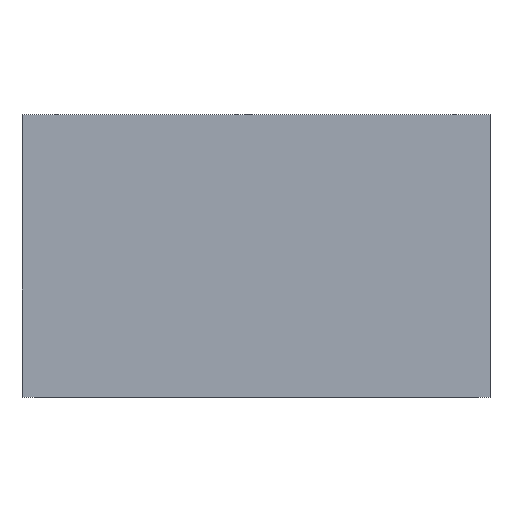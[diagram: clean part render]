
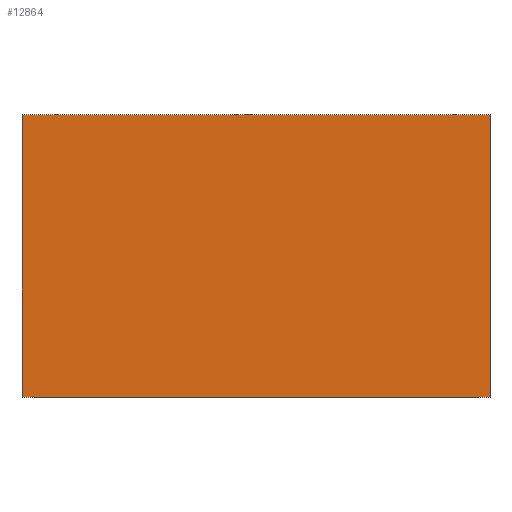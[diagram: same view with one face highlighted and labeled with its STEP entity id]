
A CAD part, top view. The second image highlights one B-rep face of the part: STEP entity #12864.
In plain terms, the highlighted planar face has unit normal (0, 0, 1).
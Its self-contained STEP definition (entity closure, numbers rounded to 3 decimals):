
#1268=ORIENTED_EDGE('',*,*,#4958,.T.);
#1269=ORIENTED_EDGE('',*,*,#4984,.F.);
#1270=ORIENTED_EDGE('',*,*,#4966,.F.);
#1271=ORIENTED_EDGE('',*,*,#4983,.T.);
#4958=EDGE_CURVE('',#6814,#6813,#8065,.T.);
#4966=EDGE_CURVE('',#6821,#6822,#8073,.T.);
#4983=EDGE_CURVE('',#6821,#6814,#8084,.T.);
#4984=EDGE_CURVE('',#6822,#6813,#8085,.T.);
#6813=VERTEX_POINT('',#19156);
#6814=VERTEX_POINT('',#19158);
#6821=VERTEX_POINT('',#19174);
#6822=VERTEX_POINT('',#19176);
#8065=LINE('',#19157,#9366);
#8073=LINE('',#19175,#9374);
#8084=LINE('',#19205,#9385);
#8085=LINE('',#19207,#9386);
#9366=VECTOR('',#15299,1000.);
#9374=VECTOR('',#15311,1000.);
#9385=VECTOR('',#15338,1000.);
#9386=VECTOR('',#15341,1000.);
#10644=EDGE_LOOP('',(#1268,#1269,#1270,#1271));
#11563=FACE_BOUND('',#10644,.T.);
#12436=PLANE('',#13818);
#12864=ADVANCED_FACE('',(#11563),#12436,.F.);
#13818=AXIS2_PLACEMENT_3D('',#19206,#15339,#15340);
#15299=DIRECTION('',(-1.,0.,0.));
#15311=DIRECTION('',(-1.,0.,0.));
#15338=DIRECTION('',(0.,1.,0.));
#15339=DIRECTION('',(0.,0.,-1.));
#15340=DIRECTION('',(-1.,0.,0.));
#15341=DIRECTION('',(0.,1.,0.));
#19156=CARTESIAN_POINT('',(-331.,200.,75.));
#19157=CARTESIAN_POINT('',(0.,200.,75.));
#19158=CARTESIAN_POINT('',(331.,200.,75.));
#19174=CARTESIAN_POINT('',(331.,-200.,75.));
#19175=CARTESIAN_POINT('',(0.,-200.,75.));
#19176=CARTESIAN_POINT('',(-331.,-200.,75.));
#19205=CARTESIAN_POINT('',(331.,-200.,75.));
#19206=CARTESIAN_POINT('',(0.,-200.,75.));
#19207=CARTESIAN_POINT('',(-331.,-200.,75.));
